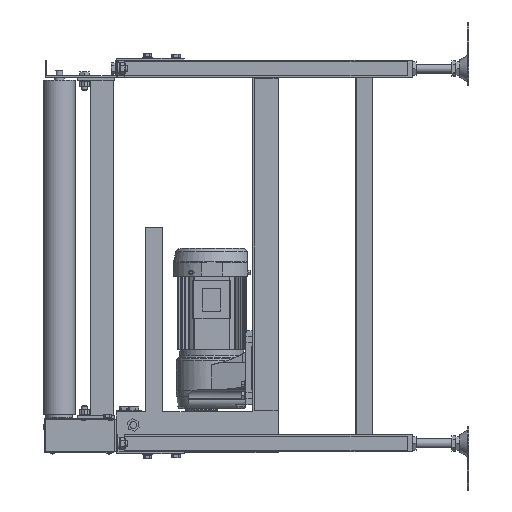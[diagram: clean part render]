
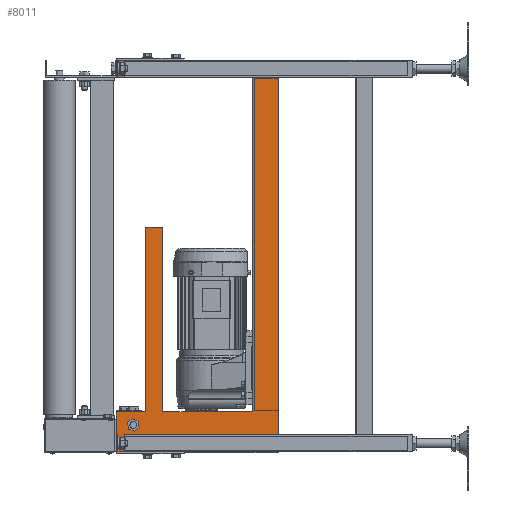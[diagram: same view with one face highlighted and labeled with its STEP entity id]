
A CAD part, left-side view. The second image highlights one B-rep face of the part: STEP entity #8011.
In plain terms, the highlighted planar face has unit normal (-1, 0, 0).
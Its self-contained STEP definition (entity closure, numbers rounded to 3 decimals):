
#8011=ADVANCED_FACE('',(#43350,#43351),#43349,.F.);
#43349=PLANE('',#64159);
#43350=FACE_OUTER_BOUND('',#64160,.T.);
#43351=FACE_BOUND('',#64161,.T.);
#64156=CARTESIAN_POINT('',(2400.,-119.,-356.6));
#64157=DIRECTION('',(1.,0.,0.));
#64158=DIRECTION('',(0.,0.,1.));
#64159=AXIS2_PLACEMENT_3D('',#64156,#64157,#64158);
#64160=EDGE_LOOP('',(#82764,#82765,#82766,#82767,#82768,#82769,#82770,#82771,#82772,#82773,#82774,#82775,#82776,#82777));
#64161=EDGE_LOOP('',(#82778,#82779,#82780,#82781,#82782,#82783));
#82764=ORIENTED_EDGE('',*,*,#92517,.F.);
#82765=ORIENTED_EDGE('',*,*,#92478,.T.);
#82766=ORIENTED_EDGE('',*,*,#92487,.T.);
#82767=ORIENTED_EDGE('',*,*,#92484,.F.);
#82768=ORIENTED_EDGE('',*,*,#92511,.T.);
#82769=ORIENTED_EDGE('',*,*,#92433,.F.);
#82770=ORIENTED_EDGE('',*,*,#92529,.T.);
#82771=ORIENTED_EDGE('',*,*,#92530,.T.);
#82772=ORIENTED_EDGE('',*,*,#92531,.T.);
#82773=ORIENTED_EDGE('',*,*,#92420,.F.);
#82774=ORIENTED_EDGE('',*,*,#92437,.F.);
#82775=ORIENTED_EDGE('',*,*,#92532,.T.);
#82776=ORIENTED_EDGE('',*,*,#92533,.F.);
#82777=ORIENTED_EDGE('',*,*,#92534,.F.);
#82778=ORIENTED_EDGE('',*,*,#92535,.T.);
#82779=ORIENTED_EDGE('',*,*,#92536,.T.);
#82780=ORIENTED_EDGE('',*,*,#92537,.T.);
#82781=ORIENTED_EDGE('',*,*,#92538,.T.);
#82782=ORIENTED_EDGE('',*,*,#92539,.T.);
#82783=ORIENTED_EDGE('',*,*,#92540,.T.);
#92420=EDGE_CURVE('',#150941,#150942,#150943,.T.);
#92433=EDGE_CURVE('',#151025,#151032,#151033,.T.);
#92437=EDGE_CURVE('',#151052,#150941,#151059,.T.);
#92478=EDGE_CURVE('',#151339,#151340,#151341,.T.);
#92484=EDGE_CURVE('',#151374,#151381,#151382,.T.);
#92487=EDGE_CURVE('',#151340,#151381,#151401,.T.);
#92511=EDGE_CURVE('',#151374,#151032,#151558,.T.);
#92517=EDGE_CURVE('',#151339,#151596,#151597,.T.);
#92529=EDGE_CURVE('',#151025,#151677,#151678,.T.);
#92530=EDGE_CURVE('',#151677,#151684,#151685,.T.);
#92531=EDGE_CURVE('',#151684,#150942,#151691,.T.);
#92532=EDGE_CURVE('',#151052,#151697,#151698,.T.);
#92533=EDGE_CURVE('',#151704,#151697,#151705,.T.);
#92534=EDGE_CURVE('',#151596,#151704,#151711,.T.);
#92535=EDGE_CURVE('',#151717,#151718,#151719,.T.);
#92536=EDGE_CURVE('',#151718,#151725,#151726,.T.);
#92537=EDGE_CURVE('',#151725,#151732,#151733,.T.);
#92538=EDGE_CURVE('',#151732,#151739,#151740,.T.);
#92539=EDGE_CURVE('',#151739,#151746,#151747,.T.);
#92540=EDGE_CURVE('',#151746,#151717,#151753,.T.);
#150941=VERTEX_POINT('',#190697);
#150942=VERTEX_POINT('',#190698);
#150943=LINE('',#190699,#190700);
#151025=VERTEX_POINT('',#190750);
#151032=VERTEX_POINT('',#190754);
#151033=LINE('',#190755,#190756);
#151052=VERTEX_POINT('',#190765);
#151059=LINE('',#190769,#190770);
#151339=VERTEX_POINT('',#190930);
#151340=VERTEX_POINT('',#190931);
#151341=LINE('',#190932,#190933);
#151374=VERTEX_POINT('',#190950);
#151381=VERTEX_POINT('',#190954);
#151382=LINE('',#190955,#190956);
#151401=LINE('',#190965,#190966);
#151558=LINE('',#191054,#191055);
#151596=VERTEX_POINT('',#191074);
#151597=LINE('',#191075,#191076);
#151677=VERTEX_POINT('',#191119);
#151678=LINE('',#191120,#191121);
#151684=VERTEX_POINT('',#191123);
#151685=LINE('',#191124,#191125);
#151691=LINE('',#191127,#191128);
#151697=VERTEX_POINT('',#191130);
#151698=LINE('',#191131,#191132);
#151704=VERTEX_POINT('',#191134);
#151705=LINE('',#191135,#191136);
#151711=LINE('',#191138,#191139);
#151717=VERTEX_POINT('',#191141);
#151718=VERTEX_POINT('',#191142);
#151719=LINE('',#191143,#191144);
#151725=VERTEX_POINT('',#191146);
#151726=LINE('',#191147,#191148);
#151732=VERTEX_POINT('',#191150);
#151733=LINE('',#191151,#191152);
#151739=VERTEX_POINT('',#191154);
#151740=LINE('',#191155,#191156);
#151746=VERTEX_POINT('',#191158);
#151747=LINE('',#191159,#191160);
#151753=LINE('',#191162,#191163);
#190697=CARTESIAN_POINT('',(2400.,-129.,-274.5));
#190698=CARTESIAN_POINT('',(2400.,-181.,-274.5));
#190699=CARTESIAN_POINT('',(2400.,-129.,-274.5));
#190700=VECTOR('',#190701,52.);
#190701=DIRECTION('',(0.,-1.,0.));
#190750=CARTESIAN_POINT('',(2400.,-211.,-274.5));
#190754=CARTESIAN_POINT('',(2400.,-369.,-274.5));
#190755=CARTESIAN_POINT('',(2400.,-211.,-274.5));
#190756=VECTOR('',#190757,158.);
#190757=DIRECTION('',(0.,-1.,0.));
#190765=CARTESIAN_POINT('',(2400.,-129.,-346.6));
#190769=CARTESIAN_POINT('',(2400.,-129.,-346.6));
#190770=VECTOR('',#190771,72.1);
#190771=DIRECTION('',(0.,0.,1.));
#190930=CARTESIAN_POINT('',(2400.,-414.,345.));
#190931=CARTESIAN_POINT('',(2400.,-129.,345.));
#190932=CARTESIAN_POINT('',(2400.,-414.,345.));
#190933=VECTOR('',#190934,285.);
#190934=DIRECTION('',(0.,1.,0.));
#190950=CARTESIAN_POINT('',(2400.,-369.,315.));
#190954=CARTESIAN_POINT('',(2400.,-129.,315.));
#190955=CARTESIAN_POINT('',(2400.,-369.,315.));
#190956=VECTOR('',#190957,240.);
#190957=DIRECTION('',(0.,1.,0.));
#190965=CARTESIAN_POINT('',(2400.,-129.,345.));
#190966=VECTOR('',#190967,30.);
#190967=DIRECTION('',(0.,0.,-1.));
#191054=CARTESIAN_POINT('',(2400.,-369.,315.));
#191055=VECTOR('',#191056,589.5);
#191056=DIRECTION('',(0.,0.,-1.));
#191074=CARTESIAN_POINT('',(2400.,-414.,-331.6));
#191075=CARTESIAN_POINT('',(2400.,-414.,345.));
#191076=VECTOR('',#191077,676.6);
#191077=DIRECTION('',(0.,0.,-1.));
#191119=CARTESIAN_POINT('',(2400.,-211.,50.5));
#191120=CARTESIAN_POINT('',(2400.,-211.,-274.5));
#191121=VECTOR('',#191122,325.);
#191122=DIRECTION('',(0.,0.,1.));
#191123=CARTESIAN_POINT('',(2400.,-181.,50.5));
#191124=CARTESIAN_POINT('',(2400.,-211.,50.5));
#191125=VECTOR('',#191126,30.);
#191126=DIRECTION('',(0.,1.,0.));
#191127=CARTESIAN_POINT('',(2400.,-181.,50.5));
#191128=VECTOR('',#191129,325.);
#191129=DIRECTION('',(0.,0.,-1.));
#191130=CARTESIAN_POINT('',(2400.,-180.,-346.6));
#191131=CARTESIAN_POINT('',(2400.,-129.,-346.6));
#191132=VECTOR('',#191133,51.);
#191133=DIRECTION('',(0.,-1.,0.));
#191134=CARTESIAN_POINT('',(2400.,-180.,-331.6));
#191135=CARTESIAN_POINT('',(2400.,-180.,-331.6));
#191136=VECTOR('',#191137,15.);
#191137=DIRECTION('',(0.,0.,-1.));
#191138=CARTESIAN_POINT('',(2400.,-414.,-331.6));
#191139=VECTOR('',#191140,234.);
#191140=DIRECTION('',(0.,1.,0.));
#191141=CARTESIAN_POINT('',(2400.,-148.698,-293.932));
#191142=CARTESIAN_POINT('',(2400.,-157.112,-286.894));
#191143=CARTESIAN_POINT('',(2400.,-148.698,-293.932));
#191144=VECTOR('',#191145,10.97);
#191145=DIRECTION('',(0.,-0.767,0.642));
#191146=CARTESIAN_POINT('',(2400.,-167.415,-290.662));
#191147=CARTESIAN_POINT('',(2400.,-157.112,-286.894));
#191148=VECTOR('',#191149,10.97);
#191149=DIRECTION('',(0.,-0.939,-0.344));
#191150=CARTESIAN_POINT('',(2400.,-169.302,-301.468));
#191151=CARTESIAN_POINT('',(2400.,-167.415,-290.662));
#191152=VECTOR('',#191153,10.97);
#191153=DIRECTION('',(0.,-0.172,-0.985));
#191154=CARTESIAN_POINT('',(2400.,-160.888,-308.506));
#191155=CARTESIAN_POINT('',(2400.,-169.302,-301.468));
#191156=VECTOR('',#191157,10.97);
#191157=DIRECTION('',(0.,0.767,-0.642));
#191158=CARTESIAN_POINT('',(2400.,-150.585,-304.738));
#191159=CARTESIAN_POINT('',(2400.,-160.888,-308.506));
#191160=VECTOR('',#191161,10.97);
#191161=DIRECTION('',(0.,0.939,0.344));
#191162=CARTESIAN_POINT('',(2400.,-150.585,-304.738));
#191163=VECTOR('',#191164,10.97);
#191164=DIRECTION('',(0.,0.172,0.985));
